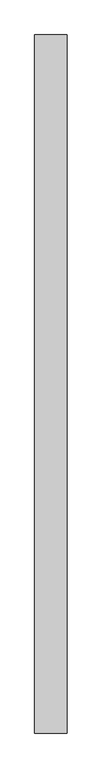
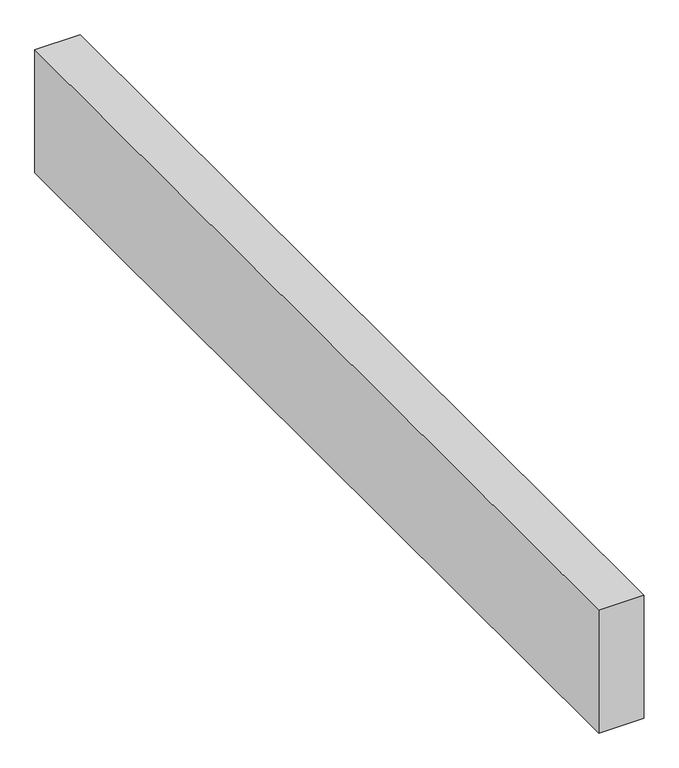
"""IFC4 building model written with IfcOpenShell, lengths in millimetres: proxy geometry."""

from ifc_helpers import new_model, si_unit, frame, origin, place, context, project, spatial, polyline, outline, extrude, source, transform, mapped, element, save


def structural_framing_65e5bc56(model_context):
    return source(origin(), model_context, "Body", "SweptSolid", [
        extrude(outline(polyline([(70.0, -1507.5), (-70.0, -1507.5), (-70.0, 1507.5), (70.0, 1507.5), (70.0, -1507.5)])), frame((0.0, 0.0, -400.0), z_axis=(0.0, 0.0, 1.0), x_axis=(1.0, 0.0, 0.0)), (0.0, 0.0, 1.0), 400.0),
    ])


if __name__ == "__main__":
    model = new_model("IFC4")
    model_context = context("Model", 3, world=origin())
    ifc_project = project(units=[si_unit("LENGTHUNIT", "METRE", prefix="MILLI")], contexts=[model_context])
    site = spatial("IfcSite", under=ifc_project)
    building = spatial("IfcBuilding", under=site)
    placement = place(None, origin())
    structural_framing_shape = structural_framing_65e5bc56(model_context)
    element("IfcBuildingElementProxy", 1, Name="Structural Framing", at=placement, inside=building, context=model_context, shape_type="MappedRepresentation", body=[
        mapped(structural_framing_shape, transform((0.0, 0.0, 0.0), x_axis=(1.0, 0.0, 0.0), y_axis=(0.0, 1.0, 0.0), z_axis=(0.0, 0.0, 1.0))),
    ])
    save(model, "model.ifc")
